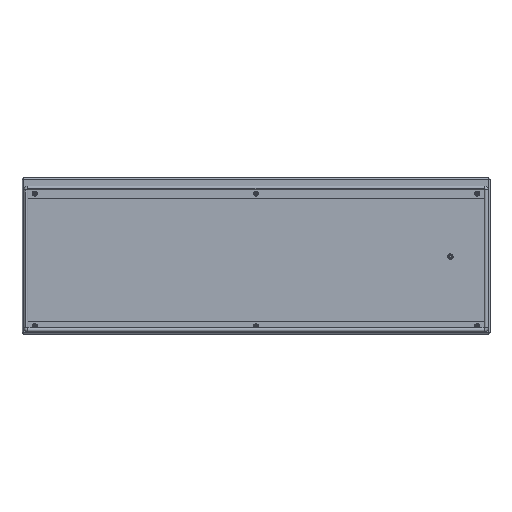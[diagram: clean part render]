
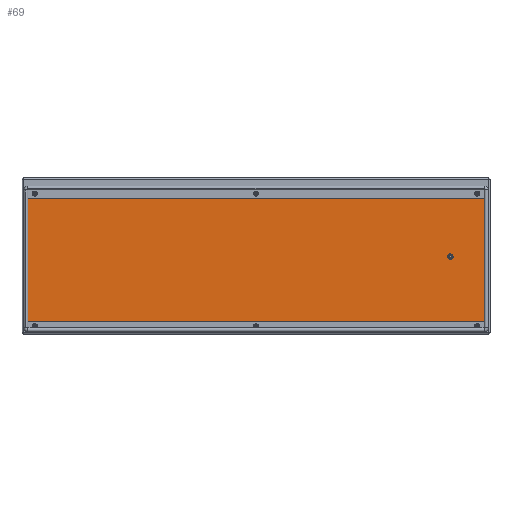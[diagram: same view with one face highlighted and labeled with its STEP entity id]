
A CAD part, top view. The second image highlights one B-rep face of the part: STEP entity #69.
In plain terms, the highlighted planar face has unit normal (0, 0, 1).
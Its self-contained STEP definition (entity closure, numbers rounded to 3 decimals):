
#69 = ADVANCED_FACE ( 'NONE', ( #2219, #2217 ), #4308, .T. ) ;
#320 = AXIS2_PLACEMENT_3D ( 'NONE', #2801, #2794, #2793 ) ;
#541 = CARTESIAN_POINT ( 'NONE',  ( -598.5, -195.5, 0. ) ) ;
#576 = CARTESIAN_POINT ( 'NONE',  ( 595.5, -198.5, 0. ) ) ;
#588 = CARTESIAN_POINT ( 'NONE',  ( 598.5, -195.5, 0. ) ) ;
#600 = CARTESIAN_POINT ( 'NONE',  ( -595.5, -198.5, 0. ) ) ;
#636 = CARTESIAN_POINT ( 'NONE',  ( -598.5, 195.5, 0. ) ) ;
#645 = CARTESIAN_POINT ( 'NONE',  ( 502.5, -1.5, 0. ) ) ;
#679 = CARTESIAN_POINT ( 'NONE',  ( 598.5, 195.5, 0. ) ) ;
#775 = CARTESIAN_POINT ( 'NONE',  ( 494.5, -1.5, 0. ) ) ;
#787 = CARTESIAN_POINT ( 'NONE',  ( 595.5, 198.5, 0. ) ) ;
#790 = CARTESIAN_POINT ( 'NONE',  ( -595.5, 198.5, 0. ) ) ;
#1549 = CIRCLE ( 'NONE', #5491, 3. ) ;
#1550 = CIRCLE ( 'NONE', #5493, 3. ) ;
#1624 = CIRCLE ( 'NONE', #5492, 3. ) ;
#1625 = CIRCLE ( 'NONE', #5490, 3. ) ;
#1634 = CIRCLE ( 'NONE', #5495, 4. ) ;
#1713 = EDGE_CURVE ( 'NONE', #4535, #4665, #1970, .T. ) ;
#1892 = EDGE_CURVE ( 'NONE', #4769, #4710, #1625, .T. ) ;
#1893 = EDGE_CURVE ( 'NONE', #4674, #4769, #2314, .T. ) ;
#1894 = EDGE_CURVE ( 'NONE', #4710, #4734, #2311, .T. ) ;
#1895 = EDGE_CURVE ( 'NONE', #4734, #4722, #1550, .T. ) ;
#1896 = EDGE_CURVE ( 'NONE', #4722, #4631, #2305, .T. ) ;
#1897 = EDGE_CURVE ( 'NONE', #4631, #4523, #1624, .T. ) ;
#1898 = EDGE_CURVE ( 'NONE', #4523, #4520, #2299, .T. ) ;
#1899 = EDGE_CURVE ( 'NONE', #4520, #4674, #1549, .T. ) ;
#1900 = EDGE_CURVE ( 'NONE', #4665, #4535, #1634, .T. ) ;
#1970 = CIRCLE ( 'NONE', #320, 4. ) ;
#2217 = FACE_BOUND ( 'NONE', #3795, .T. ) ;
#2219 = FACE_OUTER_BOUND ( 'NONE', #3797, .T. ) ;
#2229 = AXIS2_PLACEMENT_3D ( 'NONE', #4307, #4306, #4305 ) ;
#2292 = DIRECTION ( 'NONE',  ( -1., 0., 0. ) ) ;
#2293 = DIRECTION ( 'NONE',  ( 0., 0., -1. ) ) ;
#2294 = CARTESIAN_POINT ( 'NONE',  ( 498.5, -1.5, 0. ) ) ;
#2295 = DIRECTION ( 'NONE',  ( 1., 0., 0. ) ) ;
#2296 = DIRECTION ( 'NONE',  ( 0., 0., 1. ) ) ;
#2297 = DIRECTION ( 'NONE',  ( -1., 0., 0. ) ) ;
#2298 = CARTESIAN_POINT ( 'NONE',  ( 600., 198.5, 0. ) ) ;
#2299 = LINE ( 'NONE', #2298, #5500 ) ;
#2300 = CARTESIAN_POINT ( 'NONE',  ( -595.5, 195.5, 0. ) ) ;
#2301 = DIRECTION ( 'NONE',  ( 1., 0., 0. ) ) ;
#2302 = DIRECTION ( 'NONE',  ( 0., 0., 1. ) ) ;
#2303 = DIRECTION ( 'NONE',  ( 0., 1., 0. ) ) ;
#2304 = CARTESIAN_POINT ( 'NONE',  ( 598.5, -200., 0. ) ) ;
#2305 = LINE ( 'NONE', #2304, #5498 ) ;
#2306 = CARTESIAN_POINT ( 'NONE',  ( 595.5, 195.5, 0. ) ) ;
#2307 = DIRECTION ( 'NONE',  ( 1., 0., 0. ) ) ;
#2308 = DIRECTION ( 'NONE',  ( 0., 0., 1. ) ) ;
#2309 = DIRECTION ( 'NONE',  ( 1., 0., 0. ) ) ;
#2310 = CARTESIAN_POINT ( 'NONE',  ( 600., -198.5, 0. ) ) ;
#2311 = LINE ( 'NONE', #2310, #5496 ) ;
#2312 = DIRECTION ( 'NONE',  ( 0., -1., 0. ) ) ;
#2313 = CARTESIAN_POINT ( 'NONE',  ( -598.5, -200., 0. ) ) ;
#2314 = LINE ( 'NONE', #2313, #5494 ) ;
#2315 = CARTESIAN_POINT ( 'NONE',  ( 595.5, -195.5, 0. ) ) ;
#2316 = DIRECTION ( 'NONE',  ( 1., 0., 0. ) ) ;
#2317 = DIRECTION ( 'NONE',  ( 0., 0., 1. ) ) ;
#2318 = CARTESIAN_POINT ( 'NONE',  ( -595.5, -195.5, 0. ) ) ;
#2793 = DIRECTION ( 'NONE',  ( -1., 0., 0. ) ) ;
#2794 = DIRECTION ( 'NONE',  ( 0., 0., -1. ) ) ;
#2801 = CARTESIAN_POINT ( 'NONE',  ( 498.5, -1.5, 0. ) ) ;
#3795 = EDGE_LOOP ( 'NONE', ( #5016, #5018 ) ) ;
#3797 = EDGE_LOOP ( 'NONE', ( #5007, #5009, #5008, #5010, #5011, #5012, #5013, #5014 ) ) ;
#4305 = DIRECTION ( 'NONE',  ( 1., 0., 0. ) ) ;
#4306 = DIRECTION ( 'NONE',  ( 0., 0., 1. ) ) ;
#4307 = CARTESIAN_POINT ( 'NONE',  ( 0., 0., 0. ) ) ;
#4308 = PLANE ( 'NONE',  #2229 ) ;
#4520 = VERTEX_POINT ( 'NONE', #790 ) ;
#4523 = VERTEX_POINT ( 'NONE', #787 ) ;
#4535 = VERTEX_POINT ( 'NONE', #775 ) ;
#4631 = VERTEX_POINT ( 'NONE', #679 ) ;
#4665 = VERTEX_POINT ( 'NONE', #645 ) ;
#4674 = VERTEX_POINT ( 'NONE', #636 ) ;
#4710 = VERTEX_POINT ( 'NONE', #600 ) ;
#4722 = VERTEX_POINT ( 'NONE', #588 ) ;
#4734 = VERTEX_POINT ( 'NONE', #576 ) ;
#4769 = VERTEX_POINT ( 'NONE', #541 ) ;
#5007 = ORIENTED_EDGE ( 'NONE', *, *, #1893, .T. ) ;
#5008 = ORIENTED_EDGE ( 'NONE', *, *, #1894, .T. ) ;
#5009 = ORIENTED_EDGE ( 'NONE', *, *, #1892, .T. ) ;
#5010 = ORIENTED_EDGE ( 'NONE', *, *, #1895, .T. ) ;
#5011 = ORIENTED_EDGE ( 'NONE', *, *, #1896, .T. ) ;
#5012 = ORIENTED_EDGE ( 'NONE', *, *, #1897, .T. ) ;
#5013 = ORIENTED_EDGE ( 'NONE', *, *, #1898, .T. ) ;
#5014 = ORIENTED_EDGE ( 'NONE', *, *, #1899, .T. ) ;
#5016 = ORIENTED_EDGE ( 'NONE', *, *, #1900, .T. ) ;
#5018 = ORIENTED_EDGE ( 'NONE', *, *, #1713, .T. ) ;
#5490 = AXIS2_PLACEMENT_3D ( 'NONE', #2318, #2317, #2316 ) ;
#5491 = AXIS2_PLACEMENT_3D ( 'NONE', #2300, #2296, #2295 ) ;
#5492 = AXIS2_PLACEMENT_3D ( 'NONE', #2306, #2302, #2301 ) ;
#5493 = AXIS2_PLACEMENT_3D ( 'NONE', #2315, #2308, #2307 ) ;
#5494 = VECTOR ( 'NONE', #2312, 1000. ) ;
#5495 = AXIS2_PLACEMENT_3D ( 'NONE', #2294, #2293, #2292 ) ;
#5496 = VECTOR ( 'NONE', #2309, 1000. ) ;
#5498 = VECTOR ( 'NONE', #2303, 1000. ) ;
#5500 = VECTOR ( 'NONE', #2297, 1000. ) ;
